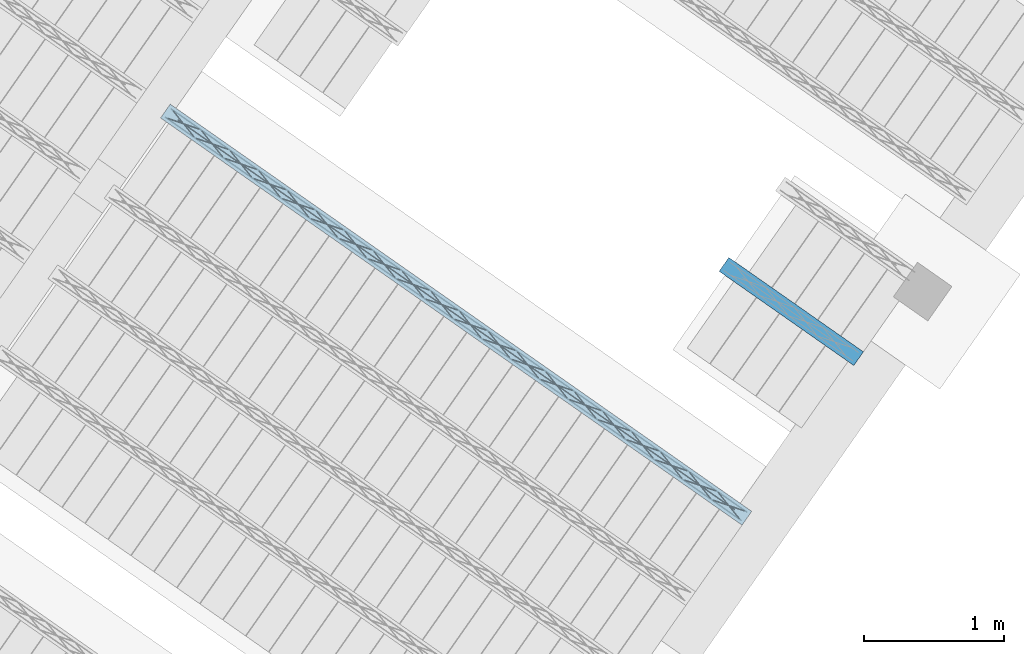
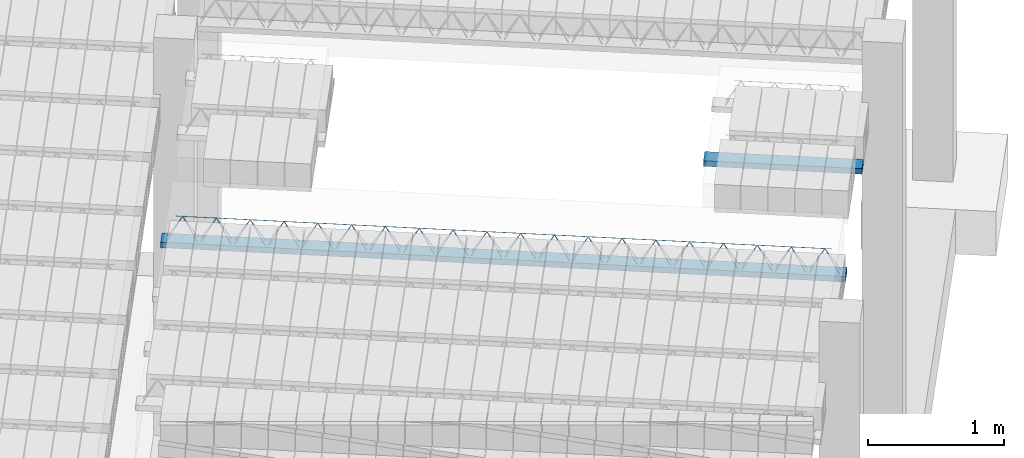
# One storey, part 44 of 80: 2 beams.
"""IFC2X3 building model written with IfcOpenShell, lengths in metres."""

from ifc_helpers import new_model, entity, si_unit, converted_unit, derived_unit, direction, frame, frame_2d, origin, origin_2d_with_axis, place, context, subcontext, project, spatial, rectangle, circle, extrude, material, type_object, element, save


model = new_model("IFC2X3")

# Units and contexts
model_context = context("Model", 3, precision=1e-05, world=origin(), true_north=direction((6.123031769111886e-17, 1.0)))
body_context = subcontext(model_context, "Body", "Model", "MODEL_VIEW")
ifc_project = project(units=[si_unit("LENGTHUNIT", "METRE"), si_unit("AREAUNIT", "SQUARE_METRE"), si_unit("VOLUMEUNIT", "CUBIC_METRE"), converted_unit("PLANEANGLEUNIT", "DEGREE", entity("IfcPlaneAngleMeasure", 0.017453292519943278), si_unit("PLANEANGLEUNIT", "RADIAN"), dimensions=[0, 0, 0, 0, 0, 0, 0]), si_unit("MASSUNIT", "GRAM", prefix="KILO"), derived_unit("MASSDENSITYUNIT", [(si_unit("MASSUNIT", "GRAM", prefix="KILO"), 1), (si_unit("LENGTHUNIT", "METRE"), -3)]), derived_unit("IONCONCENTRATIONUNIT", [(si_unit("MASSUNIT", "GRAM", prefix="KILO"), 1), (si_unit("LENGTHUNIT", "METRE"), -3)]), derived_unit("MOMENTOFINERTIAUNIT", [(si_unit("LENGTHUNIT", "METRE"), 4)]), si_unit("TIMEUNIT", "SECOND"), si_unit("FREQUENCYUNIT", "HERTZ"), si_unit("THERMODYNAMICTEMPERATUREUNIT", "DEGREE_CELSIUS"), derived_unit("THERMALTRANSMITTANCEUNIT", [(si_unit("MASSUNIT", "GRAM", prefix="KILO"), 1), (si_unit("THERMODYNAMICTEMPERATUREUNIT", "KELVIN"), -1), (si_unit("TIMEUNIT", "SECOND"), -3)]), derived_unit("THERMALCONDUCTANCEUNIT", [(si_unit("MASSUNIT", "GRAM", prefix="KILO"), 1), (si_unit("THERMODYNAMICTEMPERATUREUNIT", "KELVIN"), -1), (si_unit("TIMEUNIT", "SECOND"), -3), (si_unit("LENGTHUNIT", "METRE"), 1)]), derived_unit("VOLUMETRICFLOWRATEUNIT", [(si_unit("LENGTHUNIT", "METRE", prefix="DECI"), 3), (si_unit("TIMEUNIT", "SECOND"), -1)]), derived_unit("MASSFLOWRATEUNIT", [(si_unit("MASSUNIT", "GRAM", prefix="KILO"), 1), (si_unit("TIMEUNIT", "SECOND"), -1)]), derived_unit("ROTATIONALFREQUENCYUNIT", [(si_unit("TIMEUNIT", "SECOND"), -1)]), si_unit("ELECTRICCURRENTUNIT", "AMPERE"), si_unit("ELECTRICVOLTAGEUNIT", "VOLT"), si_unit("POWERUNIT", "WATT"), si_unit("FORCEUNIT", "NEWTON", prefix="KILO"), si_unit("ILLUMINANCEUNIT", "LUX"), si_unit("LUMINOUSFLUXUNIT", "LUMEN"), si_unit("LUMINOUSINTENSITYUNIT", "CANDELA"), si_unit("ENERGYUNIT", "JOULE"), derived_unit("USERDEFINED", [(si_unit("MASSUNIT", "GRAM", prefix="KILO"), -1), (si_unit("LENGTHUNIT", "METRE"), -2), (si_unit("TIMEUNIT", "SECOND"), 3), (si_unit("LUMINOUSFLUXUNIT", "LUMEN"), 1)]), derived_unit("USERDEFINED", [(si_unit("MASSUNIT", "GRAM", prefix="KILO"), 1), (si_unit("TIMEUNIT", "SECOND"), -3), (si_unit("LENGTHUNIT", "METRE"), 3), (si_unit("ELECTRICCURRENTUNIT", "AMPERE"), -2)]), derived_unit("SOUNDPOWERUNIT", [(si_unit("MASSUNIT", "GRAM", prefix="KILO"), 1), (si_unit("TIMEUNIT", "SECOND"), -3), (si_unit("LENGTHUNIT", "METRE"), 2)]), derived_unit("SOUNDPRESSUREUNIT", [(si_unit("MASSUNIT", "GRAM", prefix="KILO"), 1), (si_unit("LENGTHUNIT", "METRE"), -1), (si_unit("TIMEUNIT", "SECOND"), -2)]), derived_unit("LINEARVELOCITYUNIT", [(si_unit("LENGTHUNIT", "METRE"), 1), (si_unit("TIMEUNIT", "SECOND"), -1)]), si_unit("PRESSUREUNIT", "PASCAL"), derived_unit("USERDEFINED", [(si_unit("MASSUNIT", "GRAM", prefix="KILO"), 1), (si_unit("LENGTHUNIT", "METRE"), -2), (si_unit("TIMEUNIT", "SECOND"), -2)]), derived_unit("LINEARFORCEUNIT", [(si_unit("MASSUNIT", "GRAM", prefix="KILO"), 1), (si_unit("TIMEUNIT", "SECOND"), -2)]), derived_unit("PLANARFORCEUNIT", [(si_unit("MASSUNIT", "GRAM", prefix="KILO"), 1), (si_unit("LENGTHUNIT", "METRE"), -1), (si_unit("TIMEUNIT", "SECOND"), -2)]), derived_unit("SPECIFICHEATCAPACITYUNIT", [(si_unit("THERMODYNAMICTEMPERATUREUNIT", "KELVIN"), -1), (si_unit("LENGTHUNIT", "METRE"), 2), (si_unit("TIMEUNIT", "SECOND"), -2)]), derived_unit("HEATFLUXDENSITYUNIT", [(si_unit("MASSUNIT", "GRAM", prefix="KILO"), 1), (si_unit("TIMEUNIT", "SECOND"), -3)]), derived_unit("HEATINGVALUEUNIT", [(si_unit("LENGTHUNIT", "METRE"), 2), (si_unit("TIMEUNIT", "SECOND"), -2)]), derived_unit("VAPORPERMEABILITYUNIT", [(si_unit("LENGTHUNIT", "METRE"), -1), (si_unit("TIMEUNIT", "SECOND"), 1)]), derived_unit("DYNAMICVISCOSITYUNIT", [(si_unit("MASSUNIT", "GRAM", prefix="KILO"), 1), (si_unit("TIMEUNIT", "SECOND"), -1), (si_unit("LENGTHUNIT", "METRE"), -1)]), derived_unit("THERMALEXPANSIONCOEFFICIENTUNIT", [(si_unit("THERMODYNAMICTEMPERATUREUNIT", "KELVIN"), -1)]), derived_unit("MODULUSOFELASTICITYUNIT", [(si_unit("MASSUNIT", "GRAM", prefix="KILO"), 1), (si_unit("LENGTHUNIT", "METRE"), -1), (si_unit("TIMEUNIT", "SECOND"), -2)]), derived_unit("ISOTHERMALMOISTURECAPACITYUNIT", [(si_unit("MASSUNIT", "GRAM", prefix="KILO"), -1), (si_unit("LENGTHUNIT", "METRE"), 3)]), derived_unit("MOISTUREDIFFUSIVITYUNIT", [(si_unit("TIMEUNIT", "SECOND"), -1), (si_unit("LENGTHUNIT", "METRE"), 2)]), derived_unit("MASSPERLENGTHUNIT", [(si_unit("MASSUNIT", "GRAM", prefix="KILO"), 1), (si_unit("LENGTHUNIT", "METRE"), -1)]), derived_unit("THERMALRESISTANCEUNIT", [(si_unit("MASSUNIT", "GRAM", prefix="KILO"), -1), (si_unit("TIMEUNIT", "SECOND"), 3), (si_unit("THERMODYNAMICTEMPERATUREUNIT", "KELVIN"), 1)]), derived_unit("ACCELERATIONUNIT", [(si_unit("LENGTHUNIT", "METRE"), 1), (si_unit("TIMEUNIT", "SECOND"), -2)]), derived_unit("ANGULARVELOCITYUNIT", [(si_unit("TIMEUNIT", "SECOND"), -1), (si_unit("PLANEANGLEUNIT", "RADIAN"), 1)]), derived_unit("LINEARSTIFFNESSUNIT", [(si_unit("MASSUNIT", "GRAM", prefix="KILO"), 1), (si_unit("TIMEUNIT", "SECOND"), -2)]), derived_unit("WARPINGCONSTANTUNIT", [(si_unit("LENGTHUNIT", "METRE"), 6)]), derived_unit("LINEARMOMENTUNIT", [(si_unit("MASSUNIT", "GRAM", prefix="KILO"), 1), (si_unit("LENGTHUNIT", "METRE"), 1), (si_unit("TIMEUNIT", "SECOND"), -2)]), derived_unit("TORQUEUNIT", [(si_unit("MASSUNIT", "GRAM", prefix="KILO"), 1), (si_unit("LENGTHUNIT", "METRE"), 2), (si_unit("TIMEUNIT", "SECOND"), -2)])], contexts=[model_context])

# Site, building, storey
site_placement = place(None, origin())
site = spatial("IfcSite", under=ifc_project, at=site_placement, Name="Default", CompositionType="ELEMENT")
building_placement = place(site_placement, origin())
building = spatial("IfcBuilding", under=site, at=building_placement, CompositionType="ELEMENT")
storey_placement = place(building_placement, frame((0.0, 0.0, 95.94)))
storey = spatial("IfcBuildingStorey", under=building, at=storey_placement, Name="PB", CompositionType="ELEMENT", Elevation=95.94)

# Beams
beam_type = type_object("IfcBeamType", Name="Vigueta 4 (Paño 6) (Mf = 33.44)", PredefinedType="JOIST")
beam_1_placement = place(storey_placement, origin())
element("IfcBeam", 1, at=beam_1_placement, inside=storey, type_object=beam_type, Name="Vigueta 4 (Paño 6) (Mf = 33.44)", ObjectType="Mf = 33.44", context=body_context, shape_type="SweptSolid", body=[
    extrude(rectangle(XDim=5.065554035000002, YDim=0.1200000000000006, at=frame_2d((-6.661338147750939e-16, -6.591949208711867e-17), x_axis=(1.0, 0.0))), frame((6.639133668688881, 4.092319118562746, 3.2799999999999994), z_axis=(0.0, 0.0, 1.0), x_axis=(0.8191520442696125, -0.5735764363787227, 0.0)), (0.0, 0.0, 1.0), 0.04999999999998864),
    extrude(circle(Radius=0.0025, at=origin_2d_with_axis()), frame((4.563415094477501, 5.501805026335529, 3.3049999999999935), z_axis=(0.8191520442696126, -0.5735764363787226, 0.0), x_axis=(-0.5735764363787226, -0.8191520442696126, 0.0)), (0.0, 0.0, 1.0), 5.017554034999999),
    extrude(circle(Radius=0.0025, at=origin_2d_with_axis()), frame((4.65268996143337, 5.483241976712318, 3.5299999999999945), z_axis=(0.8191520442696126, -0.5735764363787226, 0.0), x_axis=(-0.5735764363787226, -0.8191520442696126, 0.0)), (0.0, 0.0, 1.0), 4.849999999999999),
    extrude(circle(Radius=0.0025, at=origin_2d_with_axis()), frame((8.666365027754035, 2.6288885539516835, 3.3049999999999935), z_axis=(-0.3145304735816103, 0.389334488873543, 0.8657304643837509), x_axis=(-0.7778747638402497, -0.6284193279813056, 0.0)), (0.0, 0.0, 1.0), 0.2598961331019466),
    extrude(circle(Radius=0.0025, at=origin_2d_with_axis()), frame((8.461577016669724, 2.772282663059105, 3.3049999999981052), z_axis=(0.47343050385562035, -0.1624017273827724, 0.8657304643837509), x_axis=(-0.3244721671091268, -0.9458952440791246, 0.0)), (0.0, 0.0, 1.0), 0.25989613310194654),
    extrude(circle(Radius=0.0025, at=origin_2d_with_axis()), frame((8.46157701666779, 2.7722826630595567, 3.3049999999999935), z_axis=(-0.3145304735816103, 0.389334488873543, 0.8657304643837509), x_axis=(-0.7778747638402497, -0.6284193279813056, 0.0)), (0.0, 0.0, 1.0), 0.2598961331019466),
    extrude(circle(Radius=0.0025, at=origin_2d_with_axis()), frame((8.25678900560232, 2.9156767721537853, 3.3049999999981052), z_axis=(0.47343050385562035, -0.1624017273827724, 0.8657304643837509), x_axis=(-0.3244721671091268, -0.9458952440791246, 0.0)), (0.0, 0.0, 1.0), 0.25989613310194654),
    extrude(circle(Radius=0.0025, at=origin_2d_with_axis()), frame((8.256789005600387, 2.9156767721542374, 3.3049999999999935), z_axis=(-0.3145304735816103, 0.389334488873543, 0.8657304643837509), x_axis=(-0.7778747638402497, -0.6284193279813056, 0.0)), (0.0, 0.0, 1.0), 0.2598961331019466),
    extrude(circle(Radius=0.0025, at=origin_2d_with_axis()), frame((8.052000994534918, 3.059070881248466, 3.3049999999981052), z_axis=(0.47343050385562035, -0.1624017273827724, 0.8657304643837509), x_axis=(-0.3244721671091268, -0.9458952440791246, 0.0)), (0.0, 0.0, 1.0), 0.25989613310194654),
    extrude(circle(Radius=0.0025, at=origin_2d_with_axis()), frame((8.052000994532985, 3.0590708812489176, 3.3049999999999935), z_axis=(-0.3145304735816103, 0.389334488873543, 0.8657304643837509), x_axis=(-0.7778747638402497, -0.6284193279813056, 0.0)), (0.0, 0.0, 1.0), 0.2598961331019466),
    extrude(circle(Radius=0.0025, at=origin_2d_with_axis()), frame((7.847212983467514, 3.202464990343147, 3.3049999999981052), z_axis=(0.47343050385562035, -0.1624017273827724, 0.8657304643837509), x_axis=(-0.3244721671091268, -0.9458952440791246, 0.0)), (0.0, 0.0, 1.0), 0.25989613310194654),
    extrude(circle(Radius=0.0025, at=origin_2d_with_axis()), frame((7.847212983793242, 3.2024649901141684, 3.3049999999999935), z_axis=(-0.3145304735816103, 0.389334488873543, 0.8657304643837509), x_axis=(-0.7778747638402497, -0.6284193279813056, 0.0)), (0.0, 0.0, 1.0), 0.2598961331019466),
    extrude(circle(Radius=0.0025, at=origin_2d_with_axis()), frame((7.642424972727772, 3.345859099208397, 3.3049999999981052), z_axis=(0.47343050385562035, -0.1624017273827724, 0.8657304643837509), x_axis=(-0.3244721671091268, -0.9458952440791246, 0.0)), (0.0, 0.0, 1.0), 0.25989613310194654),
    extrude(circle(Radius=0.0025, at=origin_2d_with_axis()), frame((7.6424249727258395, 3.3458590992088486, 3.3049999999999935), z_axis=(-0.3145304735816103, 0.389334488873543, 0.8657304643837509), x_axis=(-0.7778747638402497, -0.6284193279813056, 0.0)), (0.0, 0.0, 1.0), 0.2598961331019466),
    extrude(circle(Radius=0.0025, at=origin_2d_with_axis()), frame((7.437636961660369, 3.489253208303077, 3.3049999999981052), z_axis=(0.47343050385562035, -0.1624017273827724, 0.8657304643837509), x_axis=(-0.3244721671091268, -0.9458952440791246, 0.0)), (0.0, 0.0, 1.0), 0.25989613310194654),
    extrude(circle(Radius=0.0025, at=origin_2d_with_axis()), frame((7.437636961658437, 3.4892532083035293, 3.3049999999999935), z_axis=(-0.3145304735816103, 0.389334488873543, 0.8657304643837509), x_axis=(-0.7778747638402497, -0.6284193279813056, 0.0)), (0.0, 0.0, 1.0), 0.2598961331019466),
    extrude(circle(Radius=0.0025, at=origin_2d_with_axis()), frame((7.232848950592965, 3.6326473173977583, 3.3049999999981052), z_axis=(0.47343050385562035, -0.1624017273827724, 0.8657304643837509), x_axis=(-0.3244721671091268, -0.9458952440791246, 0.0)), (0.0, 0.0, 1.0), 0.25989613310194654),
    extrude(circle(Radius=0.0025, at=origin_2d_with_axis()), frame((7.232848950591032, 3.6326473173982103, 3.3049999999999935), z_axis=(-0.3145304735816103, 0.389334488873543, 0.8657304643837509), x_axis=(-0.7778747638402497, -0.6284193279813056, 0.0)), (0.0, 0.0, 1.0), 0.2598961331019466),
    extrude(circle(Radius=0.0025, at=origin_2d_with_axis()), frame((7.028060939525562, 3.776041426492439, 3.3049999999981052), z_axis=(0.47343050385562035, -0.1624017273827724, 0.8657304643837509), x_axis=(-0.3244721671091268, -0.9458952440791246, 0.0)), (0.0, 0.0, 1.0), 0.25989613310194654),
    extrude(circle(Radius=0.0025, at=origin_2d_with_axis()), frame((7.02806093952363, 3.7760414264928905, 3.3049999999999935), z_axis=(-0.3145304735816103, 0.389334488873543, 0.8657304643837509), x_axis=(-0.7778747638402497, -0.6284193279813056, 0.0)), (0.0, 0.0, 1.0), 0.2598961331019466),
    extrude(circle(Radius=0.0025, at=origin_2d_with_axis()), frame((6.8232729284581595, 3.9194355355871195, 3.3049999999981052), z_axis=(0.47343050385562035, -0.1624017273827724, 0.8657304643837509), x_axis=(-0.3244721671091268, -0.9458952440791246, 0.0)), (0.0, 0.0, 1.0), 0.25989613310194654),
    extrude(circle(Radius=0.0025, at=origin_2d_with_axis()), frame((6.823272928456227, 3.9194355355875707, 3.3049999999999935), z_axis=(-0.3145304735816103, 0.389334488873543, 0.8657304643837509), x_axis=(-0.7778747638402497, -0.6284193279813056, 0.0)), (0.0, 0.0, 1.0), 0.2598961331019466),
    extrude(circle(Radius=0.0025, at=origin_2d_with_axis()), frame((6.618484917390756, 4.0628296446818, 3.3049999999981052), z_axis=(0.47343050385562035, -0.1624017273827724, 0.8657304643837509), x_axis=(-0.3244721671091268, -0.9458952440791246, 0.0)), (0.0, 0.0, 1.0), 0.25989613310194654),
    extrude(circle(Radius=0.0025, at=origin_2d_with_axis()), frame((6.618484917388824, 4.062829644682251, 3.3049999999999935), z_axis=(-0.3145304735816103, 0.389334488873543, 0.8657304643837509), x_axis=(-0.7778747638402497, -0.6284193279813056, 0.0)), (0.0, 0.0, 1.0), 0.2598961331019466),
    extrude(circle(Radius=0.0025, at=origin_2d_with_axis()), frame((6.413696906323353, 4.206223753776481, 3.3049999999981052), z_axis=(0.47343050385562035, -0.1624017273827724, 0.8657304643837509), x_axis=(-0.3244721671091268, -0.9458952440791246, 0.0)), (0.0, 0.0, 1.0), 0.25989613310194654),
    extrude(circle(Radius=0.0025, at=origin_2d_with_axis()), frame((6.413696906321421, 4.206223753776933, 3.3049999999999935), z_axis=(-0.3145304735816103, 0.389334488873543, 0.8657304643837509), x_axis=(-0.7778747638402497, -0.6284193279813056, 0.0)), (0.0, 0.0, 1.0), 0.2598961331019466),
    extrude(circle(Radius=0.0025, at=origin_2d_with_axis()), frame((6.20890889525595, 4.3496178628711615, 3.3049999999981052), z_axis=(0.47343050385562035, -0.1624017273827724, 0.8657304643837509), x_axis=(-0.3244721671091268, -0.9458952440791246, 0.0)), (0.0, 0.0, 1.0), 0.25989613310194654),
    extrude(circle(Radius=0.0025, at=origin_2d_with_axis()), frame((6.208908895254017, 4.349617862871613, 3.3049999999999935), z_axis=(-0.3145304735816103, 0.389334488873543, 0.8657304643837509), x_axis=(-0.7778747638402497, -0.6284193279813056, 0.0)), (0.0, 0.0, 1.0), 0.2598961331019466),
    extrude(circle(Radius=0.0025, at=origin_2d_with_axis()), frame((6.004120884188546, 4.493011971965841, 3.3049999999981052), z_axis=(0.47343050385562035, -0.1624017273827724, 0.8657304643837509), x_axis=(-0.3244721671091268, -0.9458952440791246, 0.0)), (0.0, 0.0, 1.0), 0.25989613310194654),
    extrude(circle(Radius=0.0025, at=origin_2d_with_axis()), frame((6.004120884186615, 4.493011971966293, 3.3049999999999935), z_axis=(-0.3145304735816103, 0.389334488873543, 0.8657304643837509), x_axis=(-0.7778747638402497, -0.6284193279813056, 0.0)), (0.0, 0.0, 1.0), 0.2598961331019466),
    extrude(circle(Radius=0.0025, at=origin_2d_with_axis()), frame((5.799332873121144, 4.636406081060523, 3.3049999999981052), z_axis=(0.47343050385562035, -0.1624017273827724, 0.8657304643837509), x_axis=(-0.3244721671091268, -0.9458952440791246, 0.0)), (0.0, 0.0, 1.0), 0.25989613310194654),
    extrude(circle(Radius=0.0025, at=origin_2d_with_axis()), frame((5.799332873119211, 4.636406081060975, 3.3049999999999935), z_axis=(-0.3145304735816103, 0.389334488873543, 0.8657304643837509), x_axis=(-0.7778747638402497, -0.6284193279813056, 0.0)), (0.0, 0.0, 1.0), 0.2598961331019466),
    extrude(circle(Radius=0.0025, at=origin_2d_with_axis()), frame((5.59454486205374, 4.779800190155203, 3.3049999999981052), z_axis=(0.47343050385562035, -0.1624017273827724, 0.8657304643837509), x_axis=(-0.3244721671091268, -0.9458952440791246, 0.0)), (0.0, 0.0, 1.0), 0.25989613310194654),
    extrude(circle(Radius=0.0025, at=origin_2d_with_axis()), frame((5.594544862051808, 4.779800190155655, 3.3049999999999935), z_axis=(-0.3145304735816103, 0.389334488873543, 0.8657304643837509), x_axis=(-0.7778747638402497, -0.6284193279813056, 0.0)), (0.0, 0.0, 1.0), 0.2598961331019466),
    extrude(circle(Radius=0.0025, at=origin_2d_with_axis()), frame((5.3897568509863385, 4.923194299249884, 3.3049999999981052), z_axis=(0.47343050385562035, -0.1624017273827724, 0.8657304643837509), x_axis=(-0.3244721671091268, -0.9458952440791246, 0.0)), (0.0, 0.0, 1.0), 0.25989613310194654),
    extrude(circle(Radius=0.0025, at=origin_2d_with_axis()), frame((5.389756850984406, 4.923194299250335, 3.3049999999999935), z_axis=(-0.3145304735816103, 0.389334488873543, 0.8657304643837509), x_axis=(-0.7778747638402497, -0.6284193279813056, 0.0)), (0.0, 0.0, 1.0), 0.2598961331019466),
    extrude(circle(Radius=0.0025, at=origin_2d_with_axis()), frame((5.184968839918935, 5.066588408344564, 3.3049999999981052), z_axis=(0.47343050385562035, -0.1624017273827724, 0.8657304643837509), x_axis=(-0.3244721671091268, -0.9458952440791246, 0.0)), (0.0, 0.0, 1.0), 0.25989613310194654),
    extrude(circle(Radius=0.0025, at=origin_2d_with_axis()), frame((5.184968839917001, 5.066588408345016, 3.3049999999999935), z_axis=(-0.3145304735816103, 0.389334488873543, 0.8657304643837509), x_axis=(-0.7778747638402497, -0.6284193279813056, 0.0)), (0.0, 0.0, 1.0), 0.2598961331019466),
    extrude(circle(Radius=0.0025, at=origin_2d_with_axis()), frame((4.98018082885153, 5.209982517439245, 3.3049999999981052), z_axis=(0.47343050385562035, -0.1624017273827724, 0.8657304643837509), x_axis=(-0.3244721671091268, -0.9458952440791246, 0.0)), (0.0, 0.0, 1.0), 0.25989613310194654),
    extrude(circle(Radius=0.0025, at=origin_2d_with_axis()), frame((4.980180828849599, 5.2099825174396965, 3.3049999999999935), z_axis=(-0.3145304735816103, 0.389334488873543, 0.8657304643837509), x_axis=(-0.7778747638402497, -0.6284193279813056, 0.0)), (0.0, 0.0, 1.0), 0.2598961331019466),
    extrude(circle(Radius=0.0025, at=origin_2d_with_axis()), frame((4.7753928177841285, 5.353376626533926, 3.3049999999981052), z_axis=(0.47343050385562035, -0.1624017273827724, 0.8657304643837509), x_axis=(-0.3244721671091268, -0.9458952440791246, 0.0)), (0.0, 0.0, 1.0), 0.25989613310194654),
    extrude(circle(Radius=0.0025, at=origin_2d_with_axis()), frame((4.775392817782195, 5.353376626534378, 3.3049999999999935), z_axis=(-0.3145304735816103, 0.389334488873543, 0.8657304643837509), x_axis=(-0.7778747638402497, -0.6284193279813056, 0.0)), (0.0, 0.0, 1.0), 0.2598961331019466),
    extrude(circle(Radius=0.0025, at=origin_2d_with_axis()), frame((4.570604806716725, 5.496770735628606, 3.3049999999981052), z_axis=(0.47343050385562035, -0.1624017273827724, 0.8657304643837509), x_axis=(-0.3244721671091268, -0.9458952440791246, 0.0)), (0.0, 0.0, 1.0), 0.25989613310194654),
    extrude(circle(Radius=0.0025, at=origin_2d_with_axis()), frame((8.714852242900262, 2.682833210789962, 3.3049999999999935), z_axis=(-0.8191520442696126, 0.5735764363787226, 0.0), x_axis=(-0.5735764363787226, -0.8191520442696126, 0.0)), (0.0, 0.0, 1.0), 5.017554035),
    extrude(circle(Radius=0.0025, at=origin_2d_with_axis()), frame((8.707662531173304, 2.687867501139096, 3.3049999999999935), z_axis=(-0.47343050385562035, 0.1624017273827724, 0.8657304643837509), x_axis=(-0.3244721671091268, -0.9458952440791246, 0.0)), (0.0, 0.0, 1.0), 0.25989613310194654),
    extrude(circle(Radius=0.0025, at=origin_2d_with_axis()), frame((8.502874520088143, 2.8312616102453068, 3.3049999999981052), z_axis=(0.3145304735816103, -0.389334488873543, 0.8657304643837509), x_axis=(-0.7778747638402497, -0.6284193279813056, 0.0)), (0.0, 0.0, 1.0), 0.2598961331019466),
    extrude(circle(Radius=0.0025, at=origin_2d_with_axis()), frame((8.50287452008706, 2.8312616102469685, 3.3049999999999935), z_axis=(-0.47343050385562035, 0.1624017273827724, 0.8657304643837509), x_axis=(-0.3244721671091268, -0.9458952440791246, 0.0)), (0.0, 0.0, 1.0), 0.25989613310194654),
    extrude(circle(Radius=0.0025, at=origin_2d_with_axis()), frame((8.298086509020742, 2.974655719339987, 3.3049999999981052), z_axis=(0.3145304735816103, -0.389334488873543, 0.8657304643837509), x_axis=(-0.7778747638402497, -0.6284193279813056, 0.0)), (0.0, 0.0, 1.0), 0.2598961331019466),
    extrude(circle(Radius=0.0025, at=origin_2d_with_axis()), frame((8.298086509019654, 2.974655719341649, 3.3049999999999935), z_axis=(-0.47343050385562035, 0.1624017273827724, 0.8657304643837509), x_axis=(-0.3244721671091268, -0.9458952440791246, 0.0)), (0.0, 0.0, 1.0), 0.25989613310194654),
    extrude(circle(Radius=0.0025, at=origin_2d_with_axis()), frame((8.093298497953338, 3.118049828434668, 3.3049999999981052), z_axis=(0.3145304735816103, -0.389334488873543, 0.8657304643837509), x_axis=(-0.7778747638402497, -0.6284193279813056, 0.0)), (0.0, 0.0, 1.0), 0.2598961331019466),
    extrude(circle(Radius=0.0025, at=origin_2d_with_axis()), frame((8.093298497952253, 3.11804982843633, 3.3049999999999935), z_axis=(-0.47343050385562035, 0.1624017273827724, 0.8657304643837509), x_axis=(-0.3244721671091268, -0.9458952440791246, 0.0)), (0.0, 0.0, 1.0), 0.25989613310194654),
    extrude(circle(Radius=0.0025, at=origin_2d_with_axis()), frame((7.888510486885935, 3.2614439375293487, 3.3049999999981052), z_axis=(0.3145304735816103, -0.389334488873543, 0.8657304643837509), x_axis=(-0.7778747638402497, -0.6284193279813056, 0.0)), (0.0, 0.0, 1.0), 0.2598961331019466),
    extrude(circle(Radius=0.0025, at=origin_2d_with_axis()), frame((7.88851048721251, 3.26144393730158, 3.3049999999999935), z_axis=(-0.47343050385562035, 0.1624017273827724, 0.8657304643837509), x_axis=(-0.3244721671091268, -0.9458952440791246, 0.0)), (0.0, 0.0, 1.0), 0.25989613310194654),
    extrude(circle(Radius=0.0025, at=origin_2d_with_axis()), frame((7.683722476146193, 3.4048380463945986, 3.3049999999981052), z_axis=(0.3145304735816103, -0.389334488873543, 0.8657304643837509), x_axis=(-0.7778747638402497, -0.6284193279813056, 0.0)), (0.0, 0.0, 1.0), 0.2598961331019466),
    extrude(circle(Radius=0.0025, at=origin_2d_with_axis()), frame((7.683722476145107, 3.4048380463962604, 3.3049999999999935), z_axis=(-0.47343050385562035, 0.1624017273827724, 0.8657304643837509), x_axis=(-0.3244721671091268, -0.9458952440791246, 0.0)), (0.0, 0.0, 1.0), 0.25989613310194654),
    extrude(circle(Radius=0.0025, at=origin_2d_with_axis()), frame((7.4789344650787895, 3.5482321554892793, 3.3049999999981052), z_axis=(0.3145304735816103, -0.389334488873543, 0.8657304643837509), x_axis=(-0.7778747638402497, -0.6284193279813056, 0.0)), (0.0, 0.0, 1.0), 0.2598961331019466),
    extrude(circle(Radius=0.0025, at=origin_2d_with_axis()), frame((7.478934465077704, 3.5482321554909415, 3.3049999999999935), z_axis=(-0.47343050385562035, 0.1624017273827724, 0.8657304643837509), x_axis=(-0.3244721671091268, -0.9458952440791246, 0.0)), (0.0, 0.0, 1.0), 0.25989613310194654),
    extrude(circle(Radius=0.0025, at=origin_2d_with_axis()), frame((7.274146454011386, 3.69162626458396, 3.3049999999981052), z_axis=(0.3145304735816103, -0.389334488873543, 0.8657304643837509), x_axis=(-0.7778747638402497, -0.6284193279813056, 0.0)), (0.0, 0.0, 1.0), 0.2598961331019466),
    extrude(circle(Radius=0.0025, at=origin_2d_with_axis()), frame((7.2741464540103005, 3.691626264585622, 3.3049999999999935), z_axis=(-0.47343050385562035, 0.1624017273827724, 0.8657304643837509), x_axis=(-0.3244721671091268, -0.9458952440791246, 0.0)), (0.0, 0.0, 1.0), 0.25989613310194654),
    extrude(circle(Radius=0.0025, at=origin_2d_with_axis()), frame((7.069358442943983, 3.835020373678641, 3.3049999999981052), z_axis=(0.3145304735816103, -0.389334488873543, 0.8657304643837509), x_axis=(-0.7778747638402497, -0.6284193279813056, 0.0)), (0.0, 0.0, 1.0), 0.2598961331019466),
    extrude(circle(Radius=0.0025, at=origin_2d_with_axis()), frame((7.069358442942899, 3.8350203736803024, 3.3049999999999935), z_axis=(-0.47343050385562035, 0.1624017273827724, 0.8657304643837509), x_axis=(-0.3244721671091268, -0.9458952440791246, 0.0)), (0.0, 0.0, 1.0), 0.25989613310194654),
    extrude(circle(Radius=0.0025, at=origin_2d_with_axis()), frame((6.86457043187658, 3.978414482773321, 3.3049999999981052), z_axis=(0.3145304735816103, -0.389334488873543, 0.8657304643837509), x_axis=(-0.7778747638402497, -0.6284193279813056, 0.0)), (0.0, 0.0, 1.0), 0.2598961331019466),
    extrude(circle(Radius=0.0025, at=origin_2d_with_axis()), frame((6.864570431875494, 3.978414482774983, 3.3049999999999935), z_axis=(-0.47343050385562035, 0.1624017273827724, 0.8657304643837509), x_axis=(-0.3244721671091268, -0.9458952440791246, 0.0)), (0.0, 0.0, 1.0), 0.25989613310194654),
    extrude(circle(Radius=0.0025, at=origin_2d_with_axis()), frame((6.659782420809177, 4.121808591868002, 3.3049999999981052), z_axis=(0.3145304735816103, -0.389334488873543, 0.8657304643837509), x_axis=(-0.7778747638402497, -0.6284193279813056, 0.0)), (0.0, 0.0, 1.0), 0.2598961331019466),
    extrude(circle(Radius=0.0025, at=origin_2d_with_axis()), frame((6.659782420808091, 4.121808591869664, 3.3049999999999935), z_axis=(-0.47343050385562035, 0.1624017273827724, 0.8657304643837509), x_axis=(-0.3244721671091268, -0.9458952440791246, 0.0)), (0.0, 0.0, 1.0), 0.25989613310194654),
    extrude(circle(Radius=0.0025, at=origin_2d_with_axis()), frame((6.454994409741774, 4.265202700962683, 3.3049999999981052), z_axis=(0.3145304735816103, -0.389334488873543, 0.8657304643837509), x_axis=(-0.7778747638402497, -0.6284193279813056, 0.0)), (0.0, 0.0, 1.0), 0.2598961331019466),
    extrude(circle(Radius=0.0025, at=origin_2d_with_axis()), frame((6.454994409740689, 4.265202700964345, 3.3049999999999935), z_axis=(-0.47343050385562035, 0.1624017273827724, 0.8657304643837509), x_axis=(-0.3244721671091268, -0.9458952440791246, 0.0)), (0.0, 0.0, 1.0), 0.25989613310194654),
    extrude(circle(Radius=0.0025, at=origin_2d_with_axis()), frame((6.250206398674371, 4.408596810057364, 3.3049999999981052), z_axis=(0.3145304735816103, -0.389334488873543, 0.8657304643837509), x_axis=(-0.7778747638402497, -0.6284193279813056, 0.0)), (0.0, 0.0, 1.0), 0.2598961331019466),
    extrude(circle(Radius=0.0025, at=origin_2d_with_axis()), frame((6.250206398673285, 4.4085968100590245, 3.3049999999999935), z_axis=(-0.47343050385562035, 0.1624017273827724, 0.8657304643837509), x_axis=(-0.3244721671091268, -0.9458952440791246, 0.0)), (0.0, 0.0, 1.0), 0.25989613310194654),
    extrude(circle(Radius=0.0025, at=origin_2d_with_axis()), frame((6.045418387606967, 4.551990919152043, 3.3049999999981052), z_axis=(0.3145304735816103, -0.389334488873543, 0.8657304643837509), x_axis=(-0.7778747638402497, -0.6284193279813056, 0.0)), (0.0, 0.0, 1.0), 0.2598961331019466),
    extrude(circle(Radius=0.0025, at=origin_2d_with_axis()), frame((6.045418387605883, 4.551990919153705, 3.3049999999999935), z_axis=(-0.47343050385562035, 0.1624017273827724, 0.8657304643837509), x_axis=(-0.3244721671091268, -0.9458952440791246, 0.0)), (0.0, 0.0, 1.0), 0.25989613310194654),
    extrude(circle(Radius=0.0025, at=origin_2d_with_axis()), frame((5.840630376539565, 4.695385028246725, 3.3049999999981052), z_axis=(0.3145304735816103, -0.389334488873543, 0.8657304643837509), x_axis=(-0.7778747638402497, -0.6284193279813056, 0.0)), (0.0, 0.0, 1.0), 0.2598961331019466),
    extrude(circle(Radius=0.0025, at=origin_2d_with_axis()), frame((5.840630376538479, 4.695385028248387, 3.3049999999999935), z_axis=(-0.47343050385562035, 0.1624017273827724, 0.8657304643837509), x_axis=(-0.3244721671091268, -0.9458952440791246, 0.0)), (0.0, 0.0, 1.0), 0.25989613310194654),
    extrude(circle(Radius=0.0025, at=origin_2d_with_axis()), frame((5.635842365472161, 4.8387791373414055, 3.3049999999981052), z_axis=(0.3145304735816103, -0.389334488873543, 0.8657304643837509), x_axis=(-0.7778747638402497, -0.6284193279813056, 0.0)), (0.0, 0.0, 1.0), 0.2598961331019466),
    extrude(circle(Radius=0.0025, at=origin_2d_with_axis()), frame((5.635842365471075, 4.838779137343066, 3.3049999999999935), z_axis=(-0.47343050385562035, 0.1624017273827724, 0.8657304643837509), x_axis=(-0.3244721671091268, -0.9458952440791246, 0.0)), (0.0, 0.0, 1.0), 0.25989613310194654),
    extrude(circle(Radius=0.0025, at=origin_2d_with_axis()), frame((5.431054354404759, 4.982173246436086, 3.3049999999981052), z_axis=(0.3145304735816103, -0.389334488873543, 0.8657304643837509), x_axis=(-0.7778747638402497, -0.6284193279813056, 0.0)), (0.0, 0.0, 1.0), 0.2598961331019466),
    extrude(circle(Radius=0.0025, at=origin_2d_with_axis()), frame((5.431054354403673, 4.982173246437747, 3.3049999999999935), z_axis=(-0.47343050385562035, 0.1624017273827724, 0.8657304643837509), x_axis=(-0.3244721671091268, -0.9458952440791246, 0.0)), (0.0, 0.0, 1.0), 0.25989613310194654),
    extrude(circle(Radius=0.0025, at=origin_2d_with_axis()), frame((5.226266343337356, 5.125567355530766, 3.3049999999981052), z_axis=(0.3145304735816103, -0.389334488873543, 0.8657304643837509), x_axis=(-0.7778747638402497, -0.6284193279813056, 0.0)), (0.0, 0.0, 1.0), 0.2598961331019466),
    extrude(circle(Radius=0.0025, at=origin_2d_with_axis()), frame((5.2262663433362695, 5.125567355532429, 3.3049999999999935), z_axis=(-0.47343050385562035, 0.1624017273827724, 0.8657304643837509), x_axis=(-0.3244721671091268, -0.9458952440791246, 0.0)), (0.0, 0.0, 1.0), 0.25989613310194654),
    extrude(circle(Radius=0.0025, at=origin_2d_with_axis()), frame((5.021478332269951, 5.2689614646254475, 3.3049999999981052), z_axis=(0.3145304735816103, -0.389334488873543, 0.8657304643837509), x_axis=(-0.7778747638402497, -0.6284193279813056, 0.0)), (0.0, 0.0, 1.0), 0.2598961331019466),
    extrude(circle(Radius=0.0025, at=origin_2d_with_axis()), frame((5.021478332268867, 5.268961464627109, 3.3049999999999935), z_axis=(-0.47343050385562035, 0.1624017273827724, 0.8657304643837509), x_axis=(-0.3244721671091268, -0.9458952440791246, 0.0)), (0.0, 0.0, 1.0), 0.25989613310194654),
    extrude(circle(Radius=0.0025, at=origin_2d_with_axis()), frame((4.816690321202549, 5.412355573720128, 3.3049999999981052), z_axis=(0.3145304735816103, -0.389334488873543, 0.8657304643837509), x_axis=(-0.7778747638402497, -0.6284193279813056, 0.0)), (0.0, 0.0, 1.0), 0.2598961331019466),
    extrude(circle(Radius=0.0025, at=origin_2d_with_axis()), frame((4.816690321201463, 5.412355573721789, 3.3049999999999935), z_axis=(-0.47343050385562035, 0.1624017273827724, 0.8657304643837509), x_axis=(-0.3244721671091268, -0.9458952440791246, 0.0)), (0.0, 0.0, 1.0), 0.25989613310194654),
    extrude(circle(Radius=0.0025, at=origin_2d_with_axis()), frame((4.611902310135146, 5.555749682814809, 3.3049999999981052), z_axis=(0.3145304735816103, -0.389334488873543, 0.8657304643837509), x_axis=(-0.7778747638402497, -0.6284193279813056, 0.0)), (0.0, 0.0, 1.0), 0.2598961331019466),
])
ifc_material = material(Name="Hormigón armado")
beam_2_placement = place(storey_placement, origin())
element("IfcBeam", 2, at=beam_2_placement, inside=storey, material=ifc_material, Name="238564", context=body_context, shape_type="SweptSolid", body=[
    extrude(rectangle(XDim=0.04999999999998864, YDim=0.11999999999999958, at=frame_2d((0.0, -2.185751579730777e-16), x_axis=(1.0, 0.0))), frame((8.550416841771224, 4.450900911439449, 3.3049999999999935), z_axis=(0.8191520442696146, -0.5735764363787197, 0.0), x_axis=(0.0, 0.0, -1.0)), (0.0, 0.0, 1.0), 1.1728195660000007),
])

save(model, "model.ifc")
